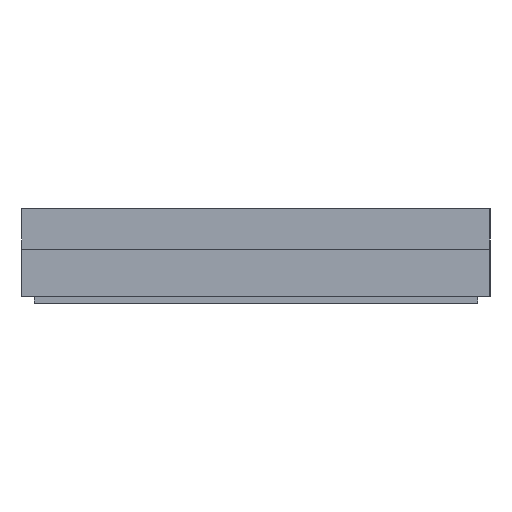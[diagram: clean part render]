
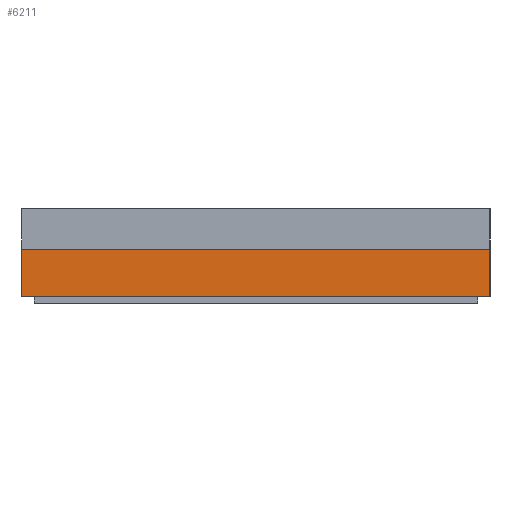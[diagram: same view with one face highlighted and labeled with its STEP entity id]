
A CAD part, left-side view. The second image highlights one B-rep face of the part: STEP entity #6211.
In plain terms, the highlighted planar face has unit normal (-1, 0, 0).
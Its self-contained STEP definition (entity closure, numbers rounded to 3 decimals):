
#81 = FACE_OUTER_BOUND ( 'NONE', #4814, .T. ) ;
#483 = LINE ( 'NONE', #4127, #7553 ) ;
#561 = VERTEX_POINT ( 'NONE', #1020 ) ;
#1020 = CARTESIAN_POINT ( 'NONE',  ( -1.778, 1.888, 4.41 ) ) ;
#1030 = VERTEX_POINT ( 'NONE', #5833 ) ;
#1738 = ORIENTED_EDGE ( 'NONE', *, *, #6253, .T. ) ;
#1797 = VECTOR ( 'NONE', #4632, 1000. ) ;
#1888 = VERTEX_POINT ( 'NONE', #7118 ) ;
#1924 = DIRECTION ( 'NONE',  ( 1., 0., 0. ) ) ;
#2453 = CARTESIAN_POINT ( 'NONE',  ( -1.778, 1.888, 4.79 ) ) ;
#2472 = ORIENTED_EDGE ( 'NONE', *, *, #3584, .T. ) ;
#2832 = DIRECTION ( 'NONE',  ( 0., 0., -1. ) ) ;
#3190 = VECTOR ( 'NONE', #5403, 1000. ) ;
#3330 = ORIENTED_EDGE ( 'NONE', *, *, #6482, .F. ) ;
#3461 = LINE ( 'NONE', #6945, #1797 ) ;
#3584 = EDGE_CURVE ( 'NONE', #1888, #561, #3461, .T. ) ;
#3708 = CARTESIAN_POINT ( 'NONE',  ( -1.778, 1.888, 4.41 ) ) ;
#3750 = ORIENTED_EDGE ( 'NONE', *, *, #7190, .F. ) ;
#4127 = CARTESIAN_POINT ( 'NONE',  ( -1.778, -1.862, 4.79 ) ) ;
#4195 = CARTESIAN_POINT ( 'NONE',  ( -1.778, -1.862, 4.41 ) ) ;
#4632 = DIRECTION ( 'NONE',  ( 0., 0., -1. ) ) ;
#4760 = PLANE ( 'NONE',  #7284 ) ;
#4814 = EDGE_LOOP ( 'NONE', ( #1738, #3750, #3330, #2472 ) ) ;
#4916 = DIRECTION ( 'NONE',  ( 0., -1., 0. ) ) ;
#5403 = DIRECTION ( 'NONE',  ( 0., -1., 0. ) ) ;
#5833 = CARTESIAN_POINT ( 'NONE',  ( -1.778, -1.862, 4.79 ) ) ;
#5998 = DIRECTION ( 'NONE',  ( 0., 1., 0. ) ) ;
#6063 = VECTOR ( 'NONE', #4916, 1000. ) ;
#6211 = ADVANCED_FACE ( 'NONE', ( #81 ), #4760, .F. ) ;
#6253 = EDGE_CURVE ( 'NONE', #561, #6803, #6538, .T. ) ;
#6482 = EDGE_CURVE ( 'NONE', #1888, #1030, #6601, .T. ) ;
#6538 = LINE ( 'NONE', #3708, #6063 ) ;
#6601 = LINE ( 'NONE', #7137, #3190 ) ;
#6803 = VERTEX_POINT ( 'NONE', #4195 ) ;
#6945 = CARTESIAN_POINT ( 'NONE',  ( -1.778, 1.888, 4.79 ) ) ;
#7118 = CARTESIAN_POINT ( 'NONE',  ( -1.778, 1.888, 4.79 ) ) ;
#7137 = CARTESIAN_POINT ( 'NONE',  ( -1.778, 1.888, 4.79 ) ) ;
#7190 = EDGE_CURVE ( 'NONE', #1030, #6803, #483, .T. ) ;
#7284 = AXIS2_PLACEMENT_3D ( 'NONE', #2453, #1924, #5998 ) ;
#7553 = VECTOR ( 'NONE', #2832, 1000. ) ;
